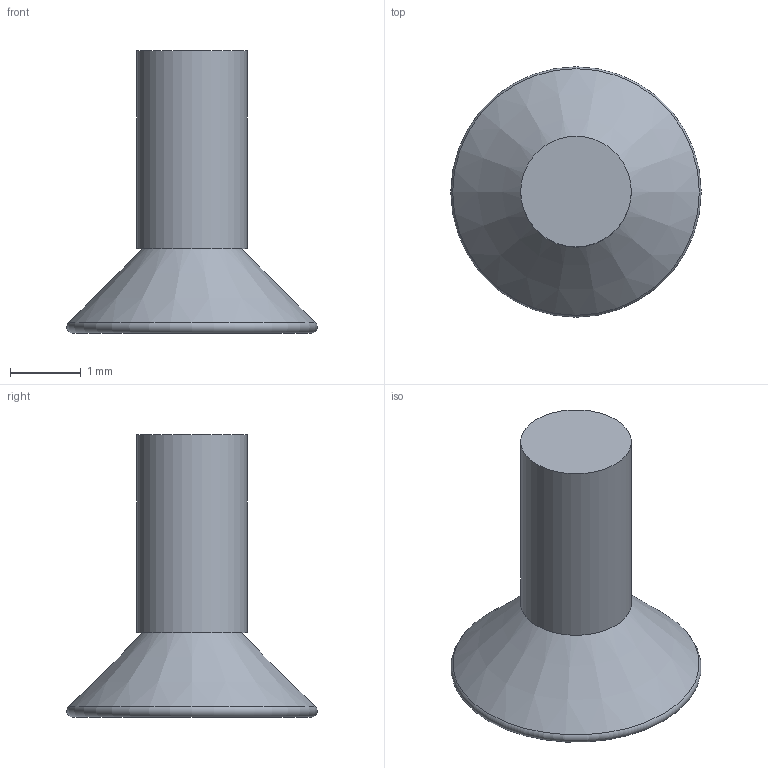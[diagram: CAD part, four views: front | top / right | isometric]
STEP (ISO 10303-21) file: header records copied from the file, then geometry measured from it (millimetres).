
FILE_DESCRIPTION(('Open CASCADE Model'),'2;1');
FILE_NAME('C27_R2_HW_Mic_11.5','2026-09-09T17:52:57',('Author'),( 'Open CASCADE'),'Open CASCADE STEP processor 7.9','build123d', 'Unknown');
FILE_SCHEMA(('AUTOMOTIVE_DESIGN { 1 0 10303 214 1 1 1 1 }'));
Length unit declared in the file: millimetre
Products named in the file (2): C27_R2_HW_Mic_11.5
Assembly tree (1 placements, depth 2):
  C27_R2_HW_Mic_11.5
    C27_R2_HW_Mic_11.5
Bounding box: 3.55 x 3.55 x 4 mm (x, y, z)
Volume: 11.5 mm3; surface area: 41.5 mm2
Topology: 1 solids, 1 shells, 27 faces, 68 edges, 45 vertices
Faces by surface type: bspline 20, plane 4, cylinder 1, cone 1, torus 1
Full cylindrical faces by diameter (mm): 1.567 x1
Entity records: 1844 total; most frequent: CARTESIAN_POINT 514, DIRECTION 208, ORIENTED_EDGE 136, PCURVE 136, DEFINITIONAL_REPRESENTATION 136, LINE 106, VECTOR 106, EDGE_CURVE 68
